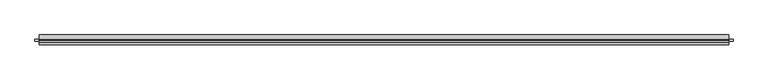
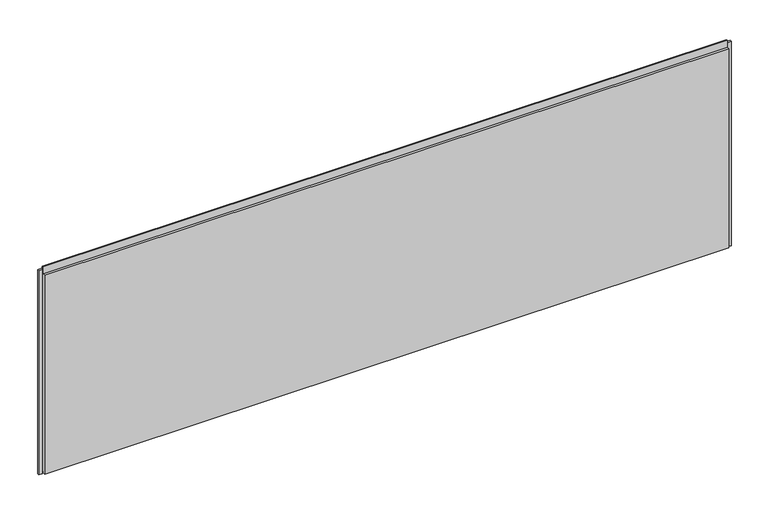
"""IFC4 building model written with IfcOpenShell, lengths in millimetres: plate geometry, Trimo_Qbiss Screen_Normal Panel-HORIZONTAL : HR - B."""

from ifc_helpers import new_model, si_unit, frame, origin, place, context, project, spatial, polyline, outline, extrude, source, transform, mapped, element, save


def plate_2e54694b(model_context):
    return source(origin(), model_context, "Body", "SweptSolid", [
        extrude(outline(polyline([(-1764.8307146, 76.5978162), (-1764.8307146, 67.8978162), (-1783.8307146, 67.8978162), (-1783.8307146, 76.5978162), (-1764.8307146, 76.5978162)])), frame((0.0, 0.0, -1.0), z_axis=(0.0, 0.0, 1.0), x_axis=(1.0, 0.0, 0.0)), (0.0, 0.0, 1.0), 1112.5),
        extrude(outline(polyline([(1764.8307146, 67.8978162), (1764.8307146, 76.5978162), (1783.8307146, 76.5978162), (1783.8307146, 67.8978162), (1764.8307146, 67.8978162)])), frame((0.0, 0.0, -1.0), z_axis=(0.0, 0.0, 1.0), x_axis=(1.0, 0.0, 0.0)), (0.0, 0.0, 1.0), 1112.5),
        extrude(outline(polyline([(1761.8307146, 76.0), (1761.8307146, 71.0), (-1761.8307146, 71.0), (-1761.8307146, 76.0), (1761.8307146, 76.0)])), frame((0.0, 0.0, 1090.5), z_axis=(0.0, 0.0, 1.0), x_axis=(1.0, 0.0, 0.0)), (0.0, 0.0, 1.0), 21.0),
        extrude(outline(polyline([(71.0, 1089.5), (100.0, 1089.5), (100.0, 0.0), (72.0, 0.0), (72.0, 15.5), (62.0, 15.5), (62.0, 7.0), (50.0, 7.0), (50.0, 1089.5), (63.0, 1089.5), (63.0, 1127.0), (71.0, 1127.0), (71.0, 1089.5)])), frame((-1761.8307146, 0.0, 0.0), z_axis=(1.0, 0.0, 0.0), x_axis=(0.0, 1.0, 0.0)), (0.0, 0.0, 1.0), 3523.6614291),
    ])


if __name__ == "__main__":
    model = new_model("IFC4")
    model_context = context("Model", 3, world=origin())
    ifc_project = project(units=[si_unit("LENGTHUNIT", "METRE", prefix="MILLI")], contexts=[model_context])
    site = spatial("IfcSite", under=ifc_project)
    building = spatial("IfcBuilding", under=site)
    placement = place(None, origin())
    plate_shape = plate_2e54694b(model_context)
    element("IfcPlate", 1, ObjectType="Trimo_Qbiss Screen_Normal Panel-HORIZONTAL : HR - B", at=placement, inside=building, context=model_context, shape_type="MappedRepresentation", body=[
        mapped(plate_shape, transform((0.0, 0.0, 0.0), x_axis=(1.0, 0.0, 0.0), y_axis=(0.0, 1.0, 0.0), z_axis=(0.0, 0.0, 1.0))),
    ])
    save(model, "model.ifc")
